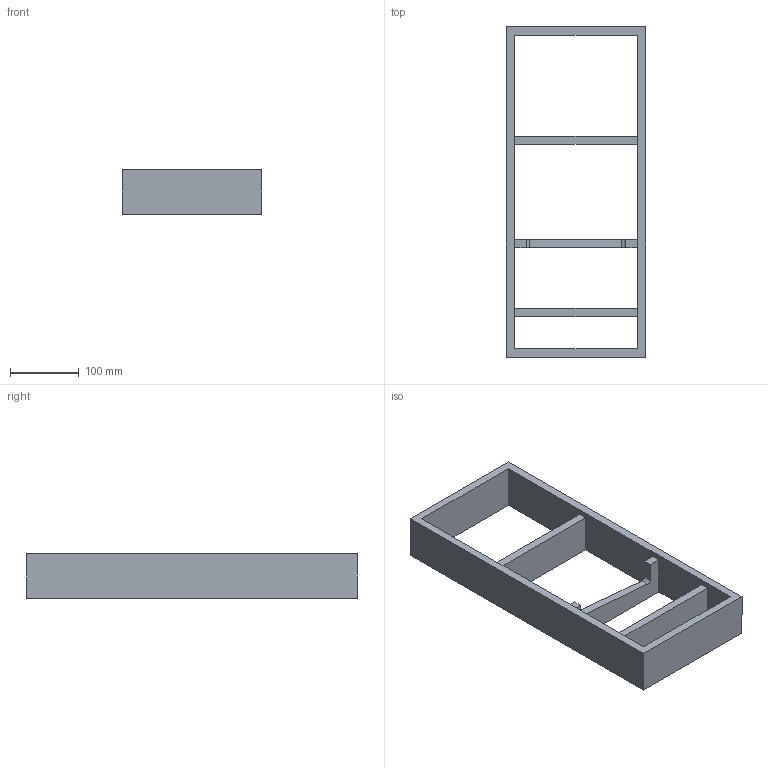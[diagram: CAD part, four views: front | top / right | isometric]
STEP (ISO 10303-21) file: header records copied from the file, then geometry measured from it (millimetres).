
FILE_DESCRIPTION (( 'STEP AP214' ), '1' );
FILE_NAME ('Vario Messer_Modul_H65_NL500_B300_19mm_Alu_Buche.step', '2010-10-07T06:11:46', ( 'grass' ), ( '' ), 'SwSTEP 2.0', 'SolidWorks 2010', '' );
FILE_SCHEMA (( 'AUTOMOTIVE_DESIGN' ));
Length unit declared in the file: millimetre
Products named in the file (1): Vario Messer_Modul_H65_NL500_B300_19mm_Alu_Buche
Bounding box: 202 x 479 x 65 mm (x, y, z)
Volume: 1345378.8 mm3; surface area: 265055.5 mm2
Topology: 1 solids, 1 shells, 25 faces, 78 edges, 52 vertices
Faces by surface type: plane 23, cylinder 2
Entity records: 906 total; most frequent: ORIENTED_EDGE 156, CARTESIAN_POINT 156, DIRECTION 134, EDGE_CURVE 78, LINE 74, VECTOR 74, VERTEX_POINT 52, AXIS2_PLACEMENT_3D 30
